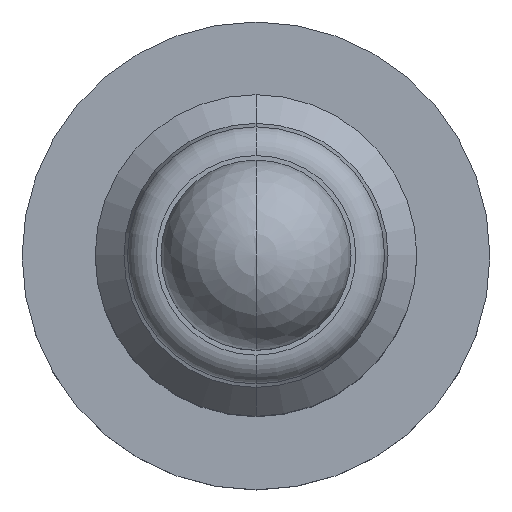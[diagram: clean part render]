
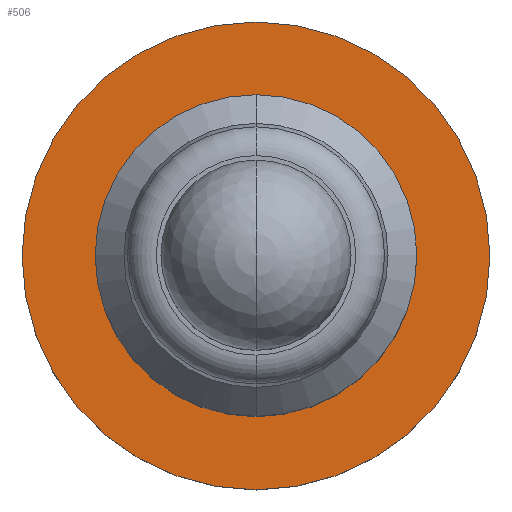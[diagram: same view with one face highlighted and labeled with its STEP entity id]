
A CAD part, top view. The second image highlights one B-rep face of the part: STEP entity #506.
In plain terms, the highlighted planar face has unit normal (0, 0, 1).
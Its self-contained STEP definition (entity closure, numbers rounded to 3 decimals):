
#1=CARTESIAN_POINT('',(0.,0.,-3.6));
#2=DIRECTION('',(0.,0.,-1.));
#3=DIRECTION('',(0.,1.,0.));
#4=AXIS2_PLACEMENT_3D('',#1,#2,#3);
#14=CARTESIAN_POINT('',(0.,0.,-3.6));
#15=DIRECTION('',(0.,0.,1.));
#16=DIRECTION('',(0.,1.,0.));
#17=AXIS2_PLACEMENT_3D('',#14,#15,#16);
#123=CARTESIAN_POINT('',(0.,0.,-3.6));
#124=DIRECTION('',(0.,0.,-1.));
#125=DIRECTION('',(0.,1.,0.));
#126=AXIS2_PLACEMENT_3D('',#123,#124,#125);
#128=CARTESIAN_POINT('',(0.,0.,-3.6));
#129=DIRECTION('',(0.,0.,1.));
#130=DIRECTION('',(0.,1.,0.));
#131=AXIS2_PLACEMENT_3D('',#128,#129,#130);
#247=CARTESIAN_POINT('',(0.,1.1,-3.6));
#249=VERTEX_POINT('',#247);
#276=CARTESIAN_POINT('',(0.,1.6,-3.6));
#278=VERTEX_POINT('',#276);
#279=CARTESIAN_POINT('',(0.,-1.1,-3.6));
#281=VERTEX_POINT('',#279);
#306=CARTESIAN_POINT('',(0.,-1.6,-3.6));
#308=VERTEX_POINT('',#306);
#491=CARTESIAN_POINT('',(0.,0.,-3.6));
#492=DIRECTION('',(0.,0.,-1.));
#493=DIRECTION('',(0.,-1.,0.));
#494=AXIS2_PLACEMENT_3D('',#491,#492,#493);
#495=PLANE('',#494);
#497=ORIENTED_EDGE('',*,*,#496,.T.);
#499=ORIENTED_EDGE('',*,*,#498,.F.);
#500=EDGE_LOOP('',(#497,#499));
#501=FACE_OUTER_BOUND('',#500,.F.);
#502=ORIENTED_EDGE('',*,*,#334,.T.);
#503=ORIENTED_EDGE('',*,*,#316,.F.);
#504=EDGE_LOOP('',(#502,#503));
#505=FACE_BOUND('',#504,.F.);
#506=ADVANCED_FACE('',(#501,#505),#495,.F.);
#5=CIRCLE('',#4,1.1);
#18=CIRCLE('',#17,1.1);
#127=CIRCLE('',#126,1.6);
#132=CIRCLE('',#131,1.6);
#316=EDGE_CURVE('',#249,#281,#5,.T.);
#334=EDGE_CURVE('',#249,#281,#18,.T.);
#496=EDGE_CURVE('',#278,#308,#127,.T.);
#498=EDGE_CURVE('',#278,#308,#132,.T.);
